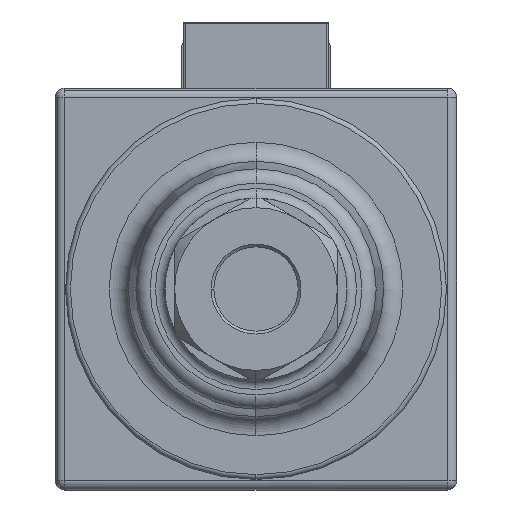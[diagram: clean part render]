
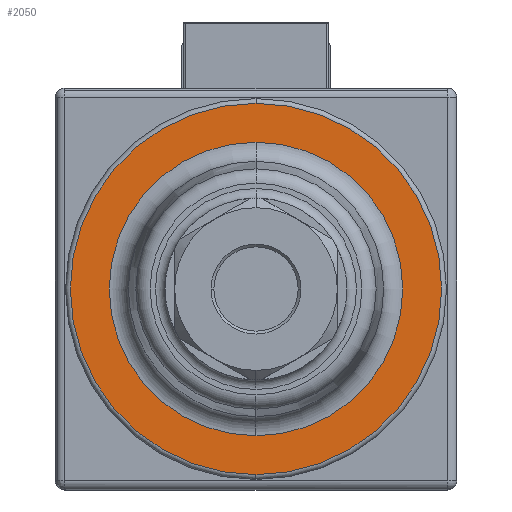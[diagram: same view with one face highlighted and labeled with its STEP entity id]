
A CAD part, front view. The second image highlights one B-rep face of the part: STEP entity #2050.
In plain terms, the highlighted planar face has unit normal (0, -1, 0).
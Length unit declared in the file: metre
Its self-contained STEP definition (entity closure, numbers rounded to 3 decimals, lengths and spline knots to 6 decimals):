
#2050=ADVANCED_FACE('42:6605',(#4505,#4506),#4507,.F.);
#4505=FACE_OUTER_BOUND('',#7975,.T.);
#4506=FACE_BOUND('',#7976,.T.);
#4507=PLANE('',#7977);
#7975=EDGE_LOOP('',(#14206,#14207));
#7976=EDGE_LOOP('',(#14208,#14209));
#7977=AXIS2_PLACEMENT_3D('',#14210,#14211,#14212);
#14206=ORIENTED_EDGE('',*,*,#19217,.T.);
#14207=ORIENTED_EDGE('',*,*,#17364,.T.);
#14208=ORIENTED_EDGE('',*,*,#17361,.T.);
#14209=ORIENTED_EDGE('',*,*,#19219,.T.);
#14210=CARTESIAN_POINT('',(-0.0135,-0.02365,0.));
#14211=DIRECTION('',(0.,1.0,0.));
#14212=DIRECTION('',(0.,0.,1.0));
#17361=EDGE_CURVE('42:6800',#20482,#20485,#20487,.T.);
#17364=EDGE_CURVE('',#20491,#20489,#20492,.F.);
#19217=EDGE_CURVE('42:6803',#20489,#20491,#23159,.F.);
#19219=EDGE_CURVE('',#20485,#20482,#23161,.T.);
#20482=VERTEX_POINT('',#24904);
#20485=VERTEX_POINT('',#24907);
#20487=CIRCLE('',#24909,0.015333);
#20489=VERTEX_POINT('',#24911);
#20491=VERTEX_POINT('',#24913);
#20492=CIRCLE('',#24914,0.0194);
#23159=CIRCLE('',#29343,0.0194);
#23161=CIRCLE('',#29345,0.015333);
#24904=CARTESIAN_POINT('',(0.,-0.02365,0.015333));
#24907=CARTESIAN_POINT('',(0.,-0.02365,-0.015333));
#24909=AXIS2_PLACEMENT_3D('',#31583,#31584,#31585);
#24911=CARTESIAN_POINT('',(0.,-0.02365,0.0194));
#24913=CARTESIAN_POINT('',(0.,-0.02365,-0.0194));
#24914=AXIS2_PLACEMENT_3D('',#31589,#31590,#31591);
#29343=AXIS2_PLACEMENT_3D('',#33618,#33619,#33620);
#29345=AXIS2_PLACEMENT_3D('',#33621,#33622,#33623);
#31583=CARTESIAN_POINT('',(0.,-0.02365,0.));
#31584=DIRECTION('',(0.,1.0,0.));
#31585=DIRECTION('',(0.,0.,1.0));
#31589=CARTESIAN_POINT('',(0.,-0.02365,0.));
#31590=DIRECTION('',(0.,1.0,0.));
#31591=DIRECTION('',(0.,0.,1.0));
#33618=CARTESIAN_POINT('',(0.,-0.02365,0.));
#33619=DIRECTION('',(0.,1.0,0.));
#33620=DIRECTION('',(0.,0.,1.0));
#33621=CARTESIAN_POINT('',(0.,-0.02365,0.));
#33622=DIRECTION('',(0.,1.0,0.));
#33623=DIRECTION('',(0.,0.,1.0));
